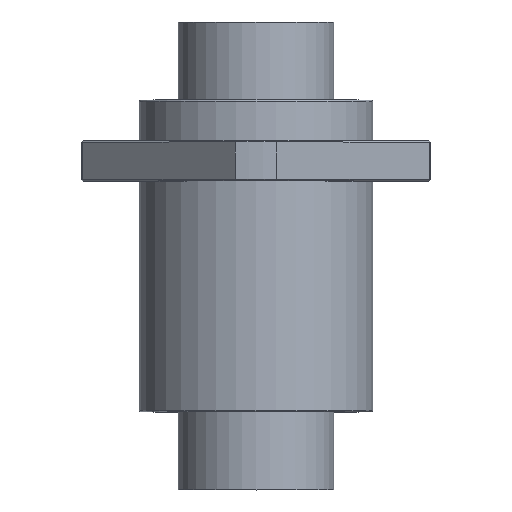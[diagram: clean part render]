
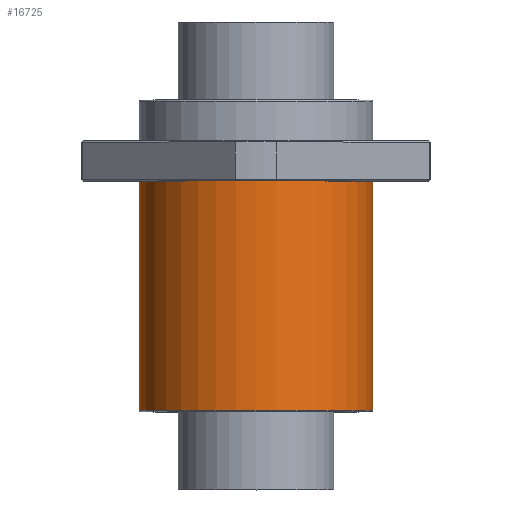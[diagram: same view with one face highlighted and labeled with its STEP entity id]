
A CAD part, top view. The second image highlights one B-rep face of the part: STEP entity #16725.
In plain terms, the highlighted cylindrical face has radius 37.5 mm (diameter 75 mm), a full revolution.
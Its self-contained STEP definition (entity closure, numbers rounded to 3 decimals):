
#2251=CYLINDRICAL_SURFACE('',#17103,37.5);
#3429=FACE_OUTER_BOUND('',#4371,.T.);
#4371=EDGE_LOOP('',(#15785,#15786,#15787,#15788,#15789,#15790,#15791));
#5537=LINE('',#30079,#6697);
#6697=VECTOR('',#18987,37.5);
#6723=CIRCLE('',#16780,37.5);
#6724=CIRCLE('',#16781,37.5);
#6779=CIRCLE('',#17104,37.5);
#6780=CIRCLE('',#17105,37.5);
#6781=CIRCLE('',#17106,37.5);
#6821=VERTEX_POINT('',#19094);
#6822=VERTEX_POINT('',#19095);
#8424=VERTEX_POINT('',#30074);
#8425=VERTEX_POINT('',#30075);
#8426=VERTEX_POINT('',#30077);
#8468=EDGE_CURVE('',#6821,#6822,#6723,.T.);
#8469=EDGE_CURVE('',#6822,#6821,#6724,.T.);
#10885=EDGE_CURVE('',#8424,#8425,#6779,.T.);
#10886=EDGE_CURVE('',#8426,#8424,#6780,.T.);
#10887=EDGE_CURVE('',#8426,#6822,#5537,.T.);
#10888=EDGE_CURVE('',#8425,#8426,#6781,.T.);
#15785=ORIENTED_EDGE('',*,*,#10885,.F.);
#15786=ORIENTED_EDGE('',*,*,#10886,.F.);
#15787=ORIENTED_EDGE('',*,*,#10887,.T.);
#15788=ORIENTED_EDGE('',*,*,#8469,.T.);
#15789=ORIENTED_EDGE('',*,*,#8468,.T.);
#15790=ORIENTED_EDGE('',*,*,#10887,.F.);
#15791=ORIENTED_EDGE('',*,*,#10888,.F.);
#16725=ADVANCED_FACE('',(#3429),#2251,.T.);
#16780=AXIS2_PLACEMENT_3D('',#19096,#17190,#17191);
#16781=AXIS2_PLACEMENT_3D('',#19097,#17192,#17193);
#17103=AXIS2_PLACEMENT_3D('',#30073,#18981,#18982);
#17104=AXIS2_PLACEMENT_3D('',#30076,#18983,#18984);
#17105=AXIS2_PLACEMENT_3D('',#30078,#18985,#18986);
#17106=AXIS2_PLACEMENT_3D('',#30080,#18988,#18989);
#17190=DIRECTION('center_axis',(0.,-1.,0.));
#17191=DIRECTION('ref_axis',(1.,0.,0.));
#17192=DIRECTION('center_axis',(0.,-1.,0.));
#17193=DIRECTION('ref_axis',(1.,0.,0.));
#18981=DIRECTION('center_axis',(0.,-1.,0.));
#18982=DIRECTION('ref_axis',(1.,0.,0.));
#18983=DIRECTION('center_axis',(0.,-1.,0.));
#18984=DIRECTION('ref_axis',(1.,0.,0.));
#18985=DIRECTION('center_axis',(0.,-1.,0.));
#18986=DIRECTION('ref_axis',(1.,0.,0.));
#18987=DIRECTION('',(0.,1.,0.));
#18988=DIRECTION('center_axis',(0.,-1.,0.));
#18989=DIRECTION('ref_axis',(1.,0.,0.));
#19094=CARTESIAN_POINT('',(37.5,24.,0.));
#19095=CARTESIAN_POINT('',(-37.5,24.,0.));
#19096=CARTESIAN_POINT('Origin',(0.,24.,0.));
#19097=CARTESIAN_POINT('Origin',(0.,24.,0.));
#30073=CARTESIAN_POINT('Origin',(0.,0.,0.));
#30074=CARTESIAN_POINT('',(37.5,-49.5,0.));
#30075=CARTESIAN_POINT('',(0.,-49.5,37.5));
#30076=CARTESIAN_POINT('Origin',(0.,-49.5,0.));
#30077=CARTESIAN_POINT('',(-37.5,-49.5,0.));
#30078=CARTESIAN_POINT('Origin',(0.,-49.5,0.));
#30079=CARTESIAN_POINT('',(-37.5,0.,0.));
#30080=CARTESIAN_POINT('Origin',(0.,-49.5,0.));
